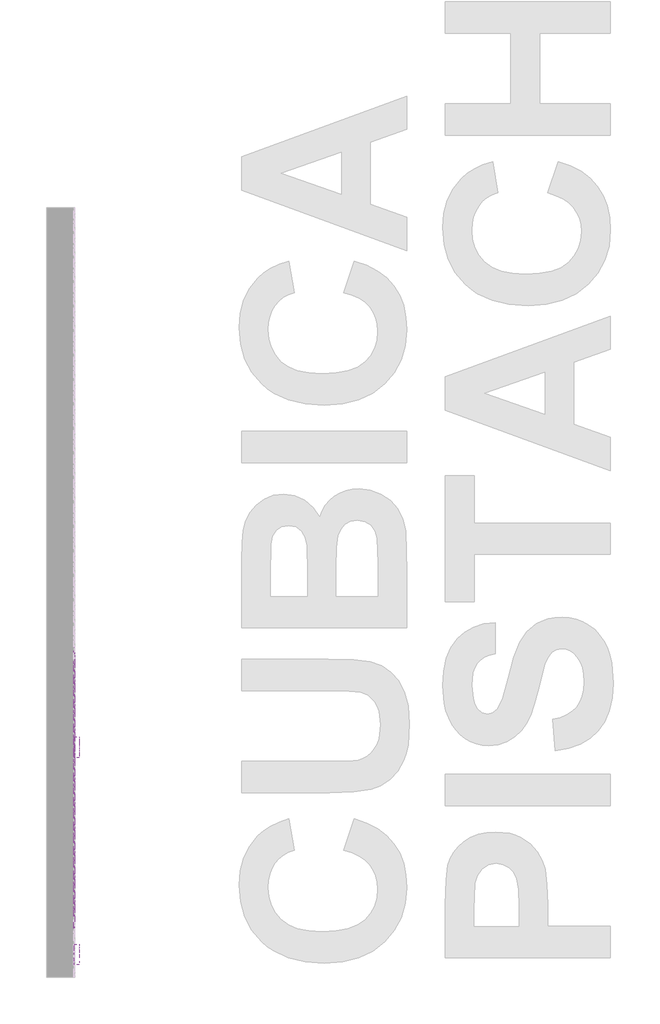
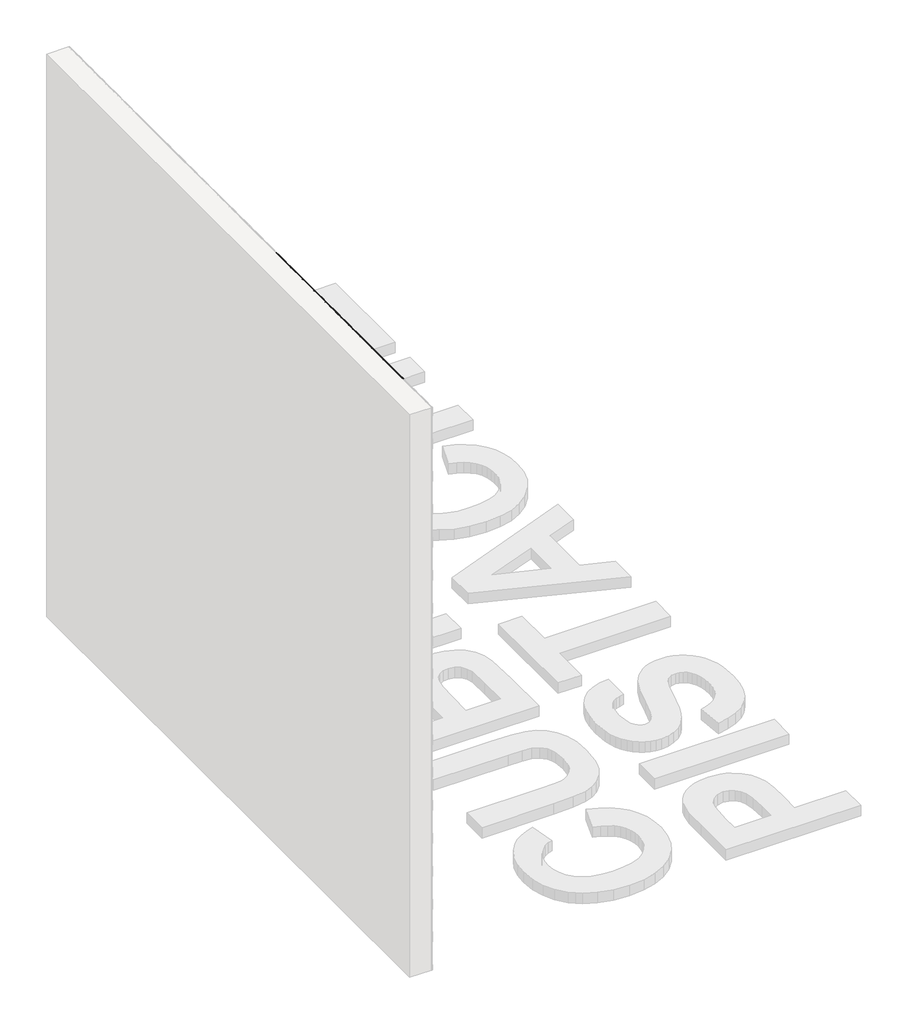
# One storey, part 83 of 121: 95 proxies.
"""IFC4 building model written with IfcOpenShell, lengths in millimetres."""

from ifc_helpers import new_model, si_unit, frame, origin, place, context, project, spatial, polyline, outline, extrude, transform, mapped, element, save
from components import generic_models_b2b2c5c1, generic_models_9bf73f6f, generic_models_5d175859, generic_models_65d4feed, generic_models_3c364290, generic_models_b652511d

model = new_model("IFC4")

# Units and contexts
model_context = context("Model", 3, world=origin())
ifc_project = project(units=[si_unit("LENGTHUNIT", "METRE", prefix="MILLI")], contexts=[model_context])

# Site, building, storey
site = spatial("IfcSite", under=ifc_project)
building = spatial("IfcBuilding", under=site)
storey = spatial("IfcBuildingStorey", under=building, Name="PORTOBELLO - SHOWROOM", Elevation=0.0)

# Proxies
placement = place(None, origin())
generic_models_shape = generic_models_b2b2c5c1(model_context)
element("IfcBuildingElementProxy", 1, Name="PBSHOP - CUBICA PISTACHE 4,8X8,3 : CUBICA PISTACHE - POSIÇÃO 01", ObjectType="PBSHOP - CUBICA PISTACHE 4,8X8,3 : CUBICA PISTACHE - POSIÇÃO 01", at=placement, inside=storey, context=model_context, shape_type="MappedRepresentation", body=[
    mapped(generic_models_shape, transform((150369.5341846, 14068.297515, 39.4221668), x_axis=(0.0, 1.0, 0.0), y_axis=(0.0, 0.0, 1.0), z_axis=(1.0, 0.0, 0.0))),
])
element("IfcBuildingElementProxy", 2, Name="PBSHOP - CUBICA PISTACHE 4,8X8,3 : CUBICA PISTACHE - POSIÇÃO 01", ObjectType="PBSHOP - CUBICA PISTACHE 4,8X8,3 : CUBICA PISTACHE - POSIÇÃO 01", at=placement, inside=storey, context=model_context, shape_type="MappedRepresentation", body=[
    mapped(generic_models_shape, transform((150369.5341846, 14159.1367842, 39.4221668), x_axis=(0.0, 1.0, 0.0), y_axis=(0.0, 0.0, 1.0), z_axis=(1.0, 0.0, 0.0))),
])
element("IfcBuildingElementProxy", 3, Name="PBSHOP - CUBICA PISTACHE 4,8X8,3 : CUBICA PISTACHE - POSIÇÃO 01", ObjectType="PBSHOP - CUBICA PISTACHE 4,8X8,3 : CUBICA PISTACHE - POSIÇÃO 01", at=placement, inside=storey, context=model_context, shape_type="MappedRepresentation", body=[
    mapped(generic_models_shape, transform((150369.5341846, 13523.2618995, 2565.3305948), x_axis=(0.0, 1.0, 0.0), y_axis=(0.0, 0.0, 1.0), z_axis=(1.0, 0.0, 0.0))),
])
element("IfcBuildingElementProxy", 4, Name="PBSHOP - CUBICA PISTACHE 4,8X8,3 : CUBICA PISTACHE - POSIÇÃO 01", ObjectType="PBSHOP - CUBICA PISTACHE 4,8X8,3 : CUBICA PISTACHE - POSIÇÃO 01", at=placement, inside=storey, context=model_context, shape_type="MappedRepresentation", body=[
    mapped(generic_models_shape, transform((150369.5341846, 13614.1011688, 2565.3305948), x_axis=(0.0, 1.0, 0.0), y_axis=(0.0, 0.0, 1.0), z_axis=(1.0, 0.0, 0.0))),
])
element("IfcBuildingElementProxy", 5, Name="PBSHOP - CUBICA PISTACHE 4,8X8,3 : CUBICA PISTACHE - POSIÇÃO 01", ObjectType="PBSHOP - CUBICA PISTACHE 4,8X8,3 : CUBICA PISTACHE - POSIÇÃO 01", at=placement, inside=storey, context=model_context, shape_type="MappedRepresentation", body=[
    mapped(generic_models_shape, transform((150369.5341846, 13704.940438, 2565.3305948), x_axis=(0.0, 1.0, 0.0), y_axis=(0.0, 0.0, 1.0), z_axis=(1.0, 0.0, 0.0))),
])
element("IfcBuildingElementProxy", 6, Name="PBSHOP - CUBICA PISTACHE 4,8X8,3 : CUBICA PISTACHE - POSIÇÃO 01", ObjectType="PBSHOP - CUBICA PISTACHE 4,8X8,3 : CUBICA PISTACHE - POSIÇÃO 01", at=placement, inside=storey, context=model_context, shape_type="MappedRepresentation", body=[
    mapped(generic_models_shape, transform((150369.5341846, 13795.7797073, 2565.3305948), x_axis=(0.0, 1.0, 0.0), y_axis=(0.0, 0.0, 1.0), z_axis=(1.0, 0.0, 0.0))),
])
element("IfcBuildingElementProxy", 7, Name="PBSHOP - CUBICA PISTACHE 4,8X8,3 : CUBICA PISTACHE - POSIÇÃO 01", ObjectType="PBSHOP - CUBICA PISTACHE 4,8X8,3 : CUBICA PISTACHE - POSIÇÃO 01", at=placement, inside=storey, context=model_context, shape_type="MappedRepresentation", body=[
    mapped(generic_models_shape, transform((150369.5341846, 13886.6189765, 2565.3305948), x_axis=(0.0, 1.0, 0.0), y_axis=(0.0, 0.0, 1.0), z_axis=(1.0, 0.0, 0.0))),
])
element("IfcBuildingElementProxy", 8, Name="PBSHOP - CUBICA PISTACHE 4,8X8,3 : CUBICA PISTACHE - POSIÇÃO 01", ObjectType="PBSHOP - CUBICA PISTACHE 4,8X8,3 : CUBICA PISTACHE - POSIÇÃO 01", at=placement, inside=storey, context=model_context, shape_type="MappedRepresentation", body=[
    mapped(generic_models_shape, transform((150369.5341846, 13977.4582457, 2565.3305948), x_axis=(0.0, 1.0, 0.0), y_axis=(0.0, 0.0, 1.0), z_axis=(1.0, 0.0, 0.0))),
])
element("IfcBuildingElementProxy", 9, Name="PBSHOP - CUBICA PISTACHE 4,8X8,3 : CUBICA PISTACHE - POSIÇÃO 01", ObjectType="PBSHOP - CUBICA PISTACHE 4,8X8,3 : CUBICA PISTACHE - POSIÇÃO 01", at=placement, inside=storey, context=model_context, shape_type="MappedRepresentation", body=[
    mapped(generic_models_shape, transform((150369.5341846, 13023.6459187, 2644.2652332), x_axis=(0.0, 1.0, 0.0), y_axis=(0.0, 0.0, 1.0), z_axis=(1.0, 0.0, 0.0))),
])
element("IfcBuildingElementProxy", 10, Name="PBSHOP - CUBICA PISTACHE 4,8X8,3 : CUBICA PISTACHE - POSIÇÃO 01", ObjectType="PBSHOP - CUBICA PISTACHE 4,8X8,3 : CUBICA PISTACHE - POSIÇÃO 01", at=placement, inside=storey, context=model_context, shape_type="MappedRepresentation", body=[
    mapped(generic_models_shape, transform((150369.5341846, 13114.4851879, 2644.2652332), x_axis=(0.0, 1.0, 0.0), y_axis=(0.0, 0.0, 1.0), z_axis=(1.0, 0.0, 0.0))),
])
element("IfcBuildingElementProxy", 11, Name="PBSHOP - CUBICA PISTACHE 4,8X8,3 : CUBICA PISTACHE - POSIÇÃO 01", ObjectType="PBSHOP - CUBICA PISTACHE 4,8X8,3 : CUBICA PISTACHE - POSIÇÃO 01", at=placement, inside=storey, context=model_context, shape_type="MappedRepresentation", body=[
    mapped(generic_models_shape, transform((150369.5341846, 13205.3244572, 2644.2652332), x_axis=(0.0, 1.0, 0.0), y_axis=(0.0, 0.0, 1.0), z_axis=(1.0, 0.0, 0.0))),
])
element("IfcBuildingElementProxy", 12, Name="PBSHOP - CUBICA PISTACHE 4,8X8,3 : CUBICA PISTACHE - POSIÇÃO 01", ObjectType="PBSHOP - CUBICA PISTACHE 4,8X8,3 : CUBICA PISTACHE - POSIÇÃO 01", at=placement, inside=storey, context=model_context, shape_type="MappedRepresentation", body=[
    mapped(generic_models_shape, transform((150369.5341846, 13296.1637264, 2644.2652332), x_axis=(0.0, 1.0, 0.0), y_axis=(0.0, 0.0, 1.0), z_axis=(1.0, 0.0, 0.0))),
])
element("IfcBuildingElementProxy", 13, Name="PBSHOP - CUBICA PISTACHE 4,8X8,3 : CUBICA PISTACHE - POSIÇÃO 01", ObjectType="PBSHOP - CUBICA PISTACHE 4,8X8,3 : CUBICA PISTACHE - POSIÇÃO 01", at=placement, inside=storey, context=model_context, shape_type="MappedRepresentation", body=[
    mapped(generic_models_shape, transform((150369.5341846, 13387.0029957, 2644.2652332), x_axis=(0.0, 1.0, 0.0), y_axis=(0.0, 0.0, 1.0), z_axis=(1.0, 0.0, 0.0))),
])
element("IfcBuildingElementProxy", 14, Name="PBSHOP - CUBICA PISTACHE 4,8X8,3 : CUBICA PISTACHE - POSIÇÃO 01", ObjectType="PBSHOP - CUBICA PISTACHE 4,8X8,3 : CUBICA PISTACHE - POSIÇÃO 01", at=placement, inside=storey, context=model_context, shape_type="MappedRepresentation", body=[
    mapped(generic_models_shape, transform((150369.5341846, 13477.8422649, 2644.2652332), x_axis=(0.0, 1.0, 0.0), y_axis=(0.0, 0.0, 1.0), z_axis=(1.0, 0.0, 0.0))),
])
element("IfcBuildingElementProxy", 15, Name="PBSHOP - CUBICA PISTACHE 4,8X8,3 : CUBICA PISTACHE - POSIÇÃO 01", ObjectType="PBSHOP - CUBICA PISTACHE 4,8X8,3 : CUBICA PISTACHE - POSIÇÃO 01", at=placement, inside=storey, context=model_context, shape_type="MappedRepresentation", body=[
    mapped(generic_models_shape, transform((150369.5341846, 13568.6815341, 2644.2652332), x_axis=(0.0, 1.0, 0.0), y_axis=(0.0, 0.0, 1.0), z_axis=(1.0, 0.0, 0.0))),
])
element("IfcBuildingElementProxy", 16, Name="PBSHOP - CUBICA PISTACHE 4,8X8,3 : CUBICA PISTACHE - POSIÇÃO 01", ObjectType="PBSHOP - CUBICA PISTACHE 4,8X8,3 : CUBICA PISTACHE - POSIÇÃO 01", at=placement, inside=storey, context=model_context, shape_type="MappedRepresentation", body=[
    mapped(generic_models_shape, transform((150369.5341846, 13659.5208034, 2644.2652332), x_axis=(0.0, 1.0, 0.0), y_axis=(0.0, 0.0, 1.0), z_axis=(1.0, 0.0, 0.0))),
])
element("IfcBuildingElementProxy", 17, Name="PBSHOP - CUBICA PISTACHE 4,8X8,3 : CUBICA PISTACHE - POSIÇÃO 01", ObjectType="PBSHOP - CUBICA PISTACHE 4,8X8,3 : CUBICA PISTACHE - POSIÇÃO 01", at=placement, inside=storey, context=model_context, shape_type="MappedRepresentation", body=[
    mapped(generic_models_shape, transform((150369.5341846, 13750.3600726, 2644.2652332), x_axis=(0.0, 1.0, 0.0), y_axis=(0.0, 0.0, 1.0), z_axis=(1.0, 0.0, 0.0))),
])
element("IfcBuildingElementProxy", 18, Name="PBSHOP - CUBICA PISTACHE 4,8X8,3 : CUBICA PISTACHE - POSIÇÃO 01", ObjectType="PBSHOP - CUBICA PISTACHE 4,8X8,3 : CUBICA PISTACHE - POSIÇÃO 01", at=placement, inside=storey, context=model_context, shape_type="MappedRepresentation", body=[
    mapped(generic_models_shape, transform((150369.5341846, 13841.1993419, 2644.2652332), x_axis=(0.0, 1.0, 0.0), y_axis=(0.0, 0.0, 1.0), z_axis=(1.0, 0.0, 0.0))),
])
element("IfcBuildingElementProxy", 19, Name="PBSHOP - CUBICA PISTACHE 4,8X8,3 : CUBICA PISTACHE - POSIÇÃO 01", ObjectType="PBSHOP - CUBICA PISTACHE 4,8X8,3 : CUBICA PISTACHE - POSIÇÃO 01", at=placement, inside=storey, context=model_context, shape_type="MappedRepresentation", body=[
    mapped(generic_models_shape, transform((150369.5341846, 13932.0386111, 2644.2652332), x_axis=(0.0, 1.0, 0.0), y_axis=(0.0, 0.0, 1.0), z_axis=(1.0, 0.0, 0.0))),
])
generic_models_2_shape = generic_models_9bf73f6f(model_context)
element("IfcBuildingElementProxy", 20, Name="PBSHOP - CUBICA PISTACHE 4,8X8,3 : CUBICA PISTACHE - POSIÇÃO 03", ObjectType="PBSHOP - CUBICA PISTACHE 4,8X8,3 : CUBICA PISTACHE - POSIÇÃO 03", at=placement, inside=storey, context=model_context, shape_type="MappedRepresentation", body=[
    mapped(generic_models_2_shape, transform((150369.5341846, 13046.3578952, 2525.8220652), x_axis=(0.0, 1.0, 0.0), y_axis=(0.0, 0.0, 1.0), z_axis=(1.0, 0.0, 0.0))),
])
element("IfcBuildingElementProxy", 21, Name="PBSHOP - CUBICA PISTACHE 4,8X8,3 : CUBICA PISTACHE - POSIÇÃO 03", ObjectType="PBSHOP - CUBICA PISTACHE 4,8X8,3 : CUBICA PISTACHE - POSIÇÃO 03", at=placement, inside=storey, context=model_context, shape_type="MappedRepresentation", body=[
    mapped(generic_models_2_shape, transform((150369.5341846, 13137.1971644, 2525.8220652), x_axis=(0.0, 1.0, 0.0), y_axis=(0.0, 0.0, 1.0), z_axis=(1.0, 0.0, 0.0))),
])
element("IfcBuildingElementProxy", 22, Name="PBSHOP - CUBICA PISTACHE 4,8X8,3 : CUBICA PISTACHE - POSIÇÃO 03", ObjectType="PBSHOP - CUBICA PISTACHE 4,8X8,3 : CUBICA PISTACHE - POSIÇÃO 03", at=placement, inside=storey, context=model_context, shape_type="MappedRepresentation", body=[
    mapped(generic_models_2_shape, transform((150369.5341846, 13228.0364336, 2525.8220652), x_axis=(0.0, 1.0, 0.0), y_axis=(0.0, 0.0, 1.0), z_axis=(1.0, 0.0, 0.0))),
])
element("IfcBuildingElementProxy", 23, Name="PBSHOP - CUBICA PISTACHE 4,8X8,3 : CUBICA PISTACHE - POSIÇÃO 03", ObjectType="PBSHOP - CUBICA PISTACHE 4,8X8,3 : CUBICA PISTACHE - POSIÇÃO 03", at=placement, inside=storey, context=model_context, shape_type="MappedRepresentation", body=[
    mapped(generic_models_2_shape, transform((150369.5341846, 13318.8757029, 2525.8220652), x_axis=(0.0, 1.0, 0.0), y_axis=(0.0, 0.0, 1.0), z_axis=(1.0, 0.0, 0.0))),
])
element("IfcBuildingElementProxy", 24, Name="PBSHOP - CUBICA PISTACHE 4,8X8,3 : CUBICA PISTACHE - POSIÇÃO 03", ObjectType="PBSHOP - CUBICA PISTACHE 4,8X8,3 : CUBICA PISTACHE - POSIÇÃO 03", at=placement, inside=storey, context=model_context, shape_type="MappedRepresentation", body=[
    mapped(generic_models_2_shape, transform((150369.5341846, 13409.7149721, 2525.8220652), x_axis=(0.0, 1.0, 0.0), y_axis=(0.0, 0.0, 1.0), z_axis=(1.0, 0.0, 0.0))),
])
element("IfcBuildingElementProxy", 25, Name="PBSHOP - CUBICA PISTACHE 4,8X8,3 : CUBICA PISTACHE - POSIÇÃO 03", ObjectType="PBSHOP - CUBICA PISTACHE 4,8X8,3 : CUBICA PISTACHE - POSIÇÃO 03", at=placement, inside=storey, context=model_context, shape_type="MappedRepresentation", body=[
    mapped(generic_models_2_shape, transform((150369.5341846, 13500.5542414, 2525.8220652), x_axis=(0.0, 1.0, 0.0), y_axis=(0.0, 0.0, 1.0), z_axis=(1.0, 0.0, 0.0))),
])
element("IfcBuildingElementProxy", 26, Name="PBSHOP - CUBICA PISTACHE 4,8X8,3 : CUBICA PISTACHE - POSIÇÃO 03", ObjectType="PBSHOP - CUBICA PISTACHE 4,8X8,3 : CUBICA PISTACHE - POSIÇÃO 03", at=placement, inside=storey, context=model_context, shape_type="MappedRepresentation", body=[
    mapped(generic_models_2_shape, transform((150369.5341846, 13591.3935106, 2525.8220652), x_axis=(0.0, 1.0, 0.0), y_axis=(0.0, 0.0, 1.0), z_axis=(1.0, 0.0, 0.0))),
])
element("IfcBuildingElementProxy", 27, Name="PBSHOP - CUBICA PISTACHE 4,8X8,3 : CUBICA PISTACHE - POSIÇÃO 03", ObjectType="PBSHOP - CUBICA PISTACHE 4,8X8,3 : CUBICA PISTACHE - POSIÇÃO 03", at=placement, inside=storey, context=model_context, shape_type="MappedRepresentation", body=[
    mapped(generic_models_2_shape, transform((150369.5341846, 13682.2327799, 2525.8220652), x_axis=(0.0, 1.0, 0.0), y_axis=(0.0, 0.0, 1.0), z_axis=(1.0, 0.0, 0.0))),
])
element("IfcBuildingElementProxy", 28, Name="PBSHOP - CUBICA PISTACHE 4,8X8,3 : CUBICA PISTACHE - POSIÇÃO 03", ObjectType="PBSHOP - CUBICA PISTACHE 4,8X8,3 : CUBICA PISTACHE - POSIÇÃO 03", at=placement, inside=storey, context=model_context, shape_type="MappedRepresentation", body=[
    mapped(generic_models_2_shape, transform((150369.5341846, 13773.0720491, 2525.8220652), x_axis=(0.0, 1.0, 0.0), y_axis=(0.0, 0.0, 1.0), z_axis=(1.0, 0.0, 0.0))),
])
element("IfcBuildingElementProxy", 29, Name="PBSHOP - CUBICA PISTACHE 4,8X8,3 : CUBICA PISTACHE - POSIÇÃO 03", ObjectType="PBSHOP - CUBICA PISTACHE 4,8X8,3 : CUBICA PISTACHE - POSIÇÃO 03", at=placement, inside=storey, context=model_context, shape_type="MappedRepresentation", body=[
    mapped(generic_models_2_shape, transform((150369.5341846, 13863.9113184, 2525.8220652), x_axis=(0.0, 1.0, 0.0), y_axis=(0.0, 0.0, 1.0), z_axis=(1.0, 0.0, 0.0))),
])
element("IfcBuildingElementProxy", 30, Name="PBSHOP - CUBICA PISTACHE 4,8X8,3 : CUBICA PISTACHE - POSIÇÃO 03", ObjectType="PBSHOP - CUBICA PISTACHE 4,8X8,3 : CUBICA PISTACHE - POSIÇÃO 03", at=placement, inside=storey, context=model_context, shape_type="MappedRepresentation", body=[
    mapped(generic_models_2_shape, transform((150369.5341846, 13954.7505876, 2525.8220652), x_axis=(0.0, 1.0, 0.0), y_axis=(0.0, 0.0, 1.0), z_axis=(1.0, 0.0, 0.0))),
])
element("IfcBuildingElementProxy", 31, Name="PBSHOP - CUBICA PISTACHE 4,8X8,3 : CUBICA PISTACHE - POSIÇÃO 03", ObjectType="PBSHOP - CUBICA PISTACHE 4,8X8,3 : CUBICA PISTACHE - POSIÇÃO 03", at=placement, inside=storey, context=model_context, shape_type="MappedRepresentation", body=[
    mapped(generic_models_2_shape, transform((150369.5341846, 13000.9382605, 2604.7567035), x_axis=(0.0, 1.0, 0.0), y_axis=(0.0, 0.0, 1.0), z_axis=(1.0, 0.0, 0.0))),
])
element("IfcBuildingElementProxy", 32, Name="PBSHOP - CUBICA PISTACHE 4,8X8,3 : CUBICA PISTACHE - POSIÇÃO 03", ObjectType="PBSHOP - CUBICA PISTACHE 4,8X8,3 : CUBICA PISTACHE - POSIÇÃO 03", at=placement, inside=storey, context=model_context, shape_type="MappedRepresentation", body=[
    mapped(generic_models_2_shape, transform((150369.5341846, 13091.7775298, 2604.7567035), x_axis=(0.0, 1.0, 0.0), y_axis=(0.0, 0.0, 1.0), z_axis=(1.0, 0.0, 0.0))),
])
element("IfcBuildingElementProxy", 33, Name="PBSHOP - CUBICA PISTACHE 4,8X8,3 : CUBICA PISTACHE - POSIÇÃO 03", ObjectType="PBSHOP - CUBICA PISTACHE 4,8X8,3 : CUBICA PISTACHE - POSIÇÃO 03", at=placement, inside=storey, context=model_context, shape_type="MappedRepresentation", body=[
    mapped(generic_models_2_shape, transform((150369.5341846, 13182.616799, 2604.7567035), x_axis=(0.0, 1.0, 0.0), y_axis=(0.0, 0.0, 1.0), z_axis=(1.0, 0.0, 0.0))),
])
element("IfcBuildingElementProxy", 34, Name="PBSHOP - CUBICA PISTACHE 4,8X8,3 : CUBICA PISTACHE - POSIÇÃO 03", ObjectType="PBSHOP - CUBICA PISTACHE 4,8X8,3 : CUBICA PISTACHE - POSIÇÃO 03", at=placement, inside=storey, context=model_context, shape_type="MappedRepresentation", body=[
    mapped(generic_models_2_shape, transform((150369.5341846, 13273.4560683, 2604.7567035), x_axis=(0.0, 1.0, 0.0), y_axis=(0.0, 0.0, 1.0), z_axis=(1.0, 0.0, 0.0))),
])
element("IfcBuildingElementProxy", 35, Name="PBSHOP - CUBICA PISTACHE 4,8X8,3 : CUBICA PISTACHE - POSIÇÃO 03", ObjectType="PBSHOP - CUBICA PISTACHE 4,8X8,3 : CUBICA PISTACHE - POSIÇÃO 03", at=placement, inside=storey, context=model_context, shape_type="MappedRepresentation", body=[
    mapped(generic_models_2_shape, transform((150369.5341846, 13364.2953375, 2604.7567035), x_axis=(0.0, 1.0, 0.0), y_axis=(0.0, 0.0, 1.0), z_axis=(1.0, 0.0, 0.0))),
])
element("IfcBuildingElementProxy", 36, Name="PBSHOP - CUBICA PISTACHE 4,8X8,3 : CUBICA PISTACHE - POSIÇÃO 03", ObjectType="PBSHOP - CUBICA PISTACHE 4,8X8,3 : CUBICA PISTACHE - POSIÇÃO 03", at=placement, inside=storey, context=model_context, shape_type="MappedRepresentation", body=[
    mapped(generic_models_2_shape, transform((150369.5341846, 13455.1346068, 2604.7567035), x_axis=(0.0, 1.0, 0.0), y_axis=(0.0, 0.0, 1.0), z_axis=(1.0, 0.0, 0.0))),
])
element("IfcBuildingElementProxy", 37, Name="PBSHOP - CUBICA PISTACHE 4,8X8,3 : CUBICA PISTACHE - POSIÇÃO 03", ObjectType="PBSHOP - CUBICA PISTACHE 4,8X8,3 : CUBICA PISTACHE - POSIÇÃO 03", at=placement, inside=storey, context=model_context, shape_type="MappedRepresentation", body=[
    mapped(generic_models_2_shape, transform((150369.5341846, 13545.973876, 2604.7567035), x_axis=(0.0, 1.0, 0.0), y_axis=(0.0, 0.0, 1.0), z_axis=(1.0, 0.0, 0.0))),
])
element("IfcBuildingElementProxy", 38, Name="PBSHOP - CUBICA PISTACHE 4,8X8,3 : CUBICA PISTACHE - POSIÇÃO 03", ObjectType="PBSHOP - CUBICA PISTACHE 4,8X8,3 : CUBICA PISTACHE - POSIÇÃO 03", at=placement, inside=storey, context=model_context, shape_type="MappedRepresentation", body=[
    mapped(generic_models_2_shape, transform((150369.5341846, 13636.8131452, 2604.7567035), x_axis=(0.0, 1.0, 0.0), y_axis=(0.0, 0.0, 1.0), z_axis=(1.0, 0.0, 0.0))),
])
element("IfcBuildingElementProxy", 39, Name="PBSHOP - CUBICA PISTACHE 4,8X8,3 : CUBICA PISTACHE - POSIÇÃO 03", ObjectType="PBSHOP - CUBICA PISTACHE 4,8X8,3 : CUBICA PISTACHE - POSIÇÃO 03", at=placement, inside=storey, context=model_context, shape_type="MappedRepresentation", body=[
    mapped(generic_models_2_shape, transform((150369.5341846, 13727.6524145, 2604.7567035), x_axis=(0.0, 1.0, 0.0), y_axis=(0.0, 0.0, 1.0), z_axis=(1.0, 0.0, 0.0))),
])
element("IfcBuildingElementProxy", 40, Name="PBSHOP - CUBICA PISTACHE 4,8X8,3 : CUBICA PISTACHE - POSIÇÃO 03", ObjectType="PBSHOP - CUBICA PISTACHE 4,8X8,3 : CUBICA PISTACHE - POSIÇÃO 03", at=placement, inside=storey, context=model_context, shape_type="MappedRepresentation", body=[
    mapped(generic_models_2_shape, transform((150369.5341846, 13818.4916837, 2604.7567035), x_axis=(0.0, 1.0, 0.0), y_axis=(0.0, 0.0, 1.0), z_axis=(1.0, 0.0, 0.0))),
])
element("IfcBuildingElementProxy", 41, Name="PBSHOP - CUBICA PISTACHE 4,8X8,3 : CUBICA PISTACHE - POSIÇÃO 03", ObjectType="PBSHOP - CUBICA PISTACHE 4,8X8,3 : CUBICA PISTACHE - POSIÇÃO 03", at=placement, inside=storey, context=model_context, shape_type="MappedRepresentation", body=[
    mapped(generic_models_2_shape, transform((150369.5341846, 13909.330953, 2604.7567035), x_axis=(0.0, 1.0, 0.0), y_axis=(0.0, 0.0, 1.0), z_axis=(1.0, 0.0, 0.0))),
])
generic_models_3_shape = generic_models_5d175859(model_context)
element("IfcBuildingElementProxy", 42, Name="PBSHOP - CUBICA PISTACHE 4,8X8,3 : CUBICA PISTACHE - POSIÇÃO 01", ObjectType="PBSHOP - CUBICA PISTACHE 4,8X8,3 : CUBICA PISTACHE - POSIÇÃO 01", at=placement, inside=storey, context=model_context, shape_type="MappedRepresentation", body=[
    mapped(generic_models_3_shape, transform((150369.5341846, 14022.8821987, 39.4221668), x_axis=(0.0, -1.0, 0.0), y_axis=(0.0, 0.0, -1.0), z_axis=(1.0, 0.0, 0.0))),
])
element("IfcBuildingElementProxy", 43, Name="PBSHOP - CUBICA PISTACHE 4,8X8,3 : CUBICA PISTACHE - POSIÇÃO 01", ObjectType="PBSHOP - CUBICA PISTACHE 4,8X8,3 : CUBICA PISTACHE - POSIÇÃO 01", at=placement, inside=storey, context=model_context, shape_type="MappedRepresentation", body=[
    mapped(generic_models_3_shape, transform((150369.5341846, 14113.7214679, 39.4221668), x_axis=(0.0, -1.0, 0.0), y_axis=(0.0, 0.0, -1.0), z_axis=(1.0, 0.0, 0.0))),
])
element("IfcBuildingElementProxy", 44, Name="PBSHOP - CUBICA PISTACHE 4,8X8,3 : CUBICA PISTACHE - POSIÇÃO 01", ObjectType="PBSHOP - CUBICA PISTACHE 4,8X8,3 : CUBICA PISTACHE - POSIÇÃO 01", at=placement, inside=storey, context=model_context, shape_type="MappedRepresentation", body=[
    mapped(generic_models_3_shape, transform((150369.5341846, 14204.5607372, 39.4221668), x_axis=(0.0, -1.0, 0.0), y_axis=(0.0, 0.0, -1.0), z_axis=(1.0, 0.0, 0.0))),
])
element("IfcBuildingElementProxy", 45, Name="PBSHOP - CUBICA PISTACHE 4,8X8,3 : CUBICA PISTACHE - POSIÇÃO 01", ObjectType="PBSHOP - CUBICA PISTACHE 4,8X8,3 : CUBICA PISTACHE - POSIÇÃO 01", at=placement, inside=storey, context=model_context, shape_type="MappedRepresentation", body=[
    mapped(generic_models_3_shape, transform((150369.5341846, 13568.6858525, 2565.3305948), x_axis=(0.0, -1.0, 0.0), y_axis=(0.0, 0.0, -1.0), z_axis=(1.0, 0.0, 0.0))),
])
element("IfcBuildingElementProxy", 46, Name="PBSHOP - CUBICA PISTACHE 4,8X8,3 : CUBICA PISTACHE - POSIÇÃO 01", ObjectType="PBSHOP - CUBICA PISTACHE 4,8X8,3 : CUBICA PISTACHE - POSIÇÃO 01", at=placement, inside=storey, context=model_context, shape_type="MappedRepresentation", body=[
    mapped(generic_models_3_shape, transform((150369.5341846, 13659.5251217, 2565.3305948), x_axis=(0.0, -1.0, 0.0), y_axis=(0.0, 0.0, -1.0), z_axis=(1.0, 0.0, 0.0))),
])
element("IfcBuildingElementProxy", 47, Name="PBSHOP - CUBICA PISTACHE 4,8X8,3 : CUBICA PISTACHE - POSIÇÃO 01", ObjectType="PBSHOP - CUBICA PISTACHE 4,8X8,3 : CUBICA PISTACHE - POSIÇÃO 01", at=placement, inside=storey, context=model_context, shape_type="MappedRepresentation", body=[
    mapped(generic_models_3_shape, transform((150369.5341846, 13750.364391, 2565.3305948), x_axis=(0.0, -1.0, 0.0), y_axis=(0.0, 0.0, -1.0), z_axis=(1.0, 0.0, 0.0))),
])
element("IfcBuildingElementProxy", 48, Name="PBSHOP - CUBICA PISTACHE 4,8X8,3 : CUBICA PISTACHE - POSIÇÃO 01", ObjectType="PBSHOP - CUBICA PISTACHE 4,8X8,3 : CUBICA PISTACHE - POSIÇÃO 01", at=placement, inside=storey, context=model_context, shape_type="MappedRepresentation", body=[
    mapped(generic_models_3_shape, transform((150369.5341846, 13841.2036602, 2565.3305948), x_axis=(0.0, -1.0, 0.0), y_axis=(0.0, 0.0, -1.0), z_axis=(1.0, 0.0, 0.0))),
])
element("IfcBuildingElementProxy", 49, Name="PBSHOP - CUBICA PISTACHE 4,8X8,3 : CUBICA PISTACHE - POSIÇÃO 01", ObjectType="PBSHOP - CUBICA PISTACHE 4,8X8,3 : CUBICA PISTACHE - POSIÇÃO 01", at=placement, inside=storey, context=model_context, shape_type="MappedRepresentation", body=[
    mapped(generic_models_3_shape, transform((150369.5341846, 13932.0429295, 2565.3305948), x_axis=(0.0, -1.0, 0.0), y_axis=(0.0, 0.0, -1.0), z_axis=(1.0, 0.0, 0.0))),
])
element("IfcBuildingElementProxy", 50, Name="PBSHOP - CUBICA PISTACHE 4,8X8,3 : CUBICA PISTACHE - POSIÇÃO 01", ObjectType="PBSHOP - CUBICA PISTACHE 4,8X8,3 : CUBICA PISTACHE - POSIÇÃO 01", at=placement, inside=storey, context=model_context, shape_type="MappedRepresentation", body=[
    mapped(generic_models_3_shape, transform((150369.5341846, 13069.0698716, 2644.2652332), x_axis=(0.0, -1.0, 0.0), y_axis=(0.0, 0.0, -1.0), z_axis=(1.0, 0.0, 0.0))),
])
element("IfcBuildingElementProxy", 51, Name="PBSHOP - CUBICA PISTACHE 4,8X8,3 : CUBICA PISTACHE - POSIÇÃO 01", ObjectType="PBSHOP - CUBICA PISTACHE 4,8X8,3 : CUBICA PISTACHE - POSIÇÃO 01", at=placement, inside=storey, context=model_context, shape_type="MappedRepresentation", body=[
    mapped(generic_models_3_shape, transform((150369.5341846, 13159.9091409, 2644.2652332), x_axis=(0.0, -1.0, 0.0), y_axis=(0.0, 0.0, -1.0), z_axis=(1.0, 0.0, 0.0))),
])
element("IfcBuildingElementProxy", 52, Name="PBSHOP - CUBICA PISTACHE 4,8X8,3 : CUBICA PISTACHE - POSIÇÃO 01", ObjectType="PBSHOP - CUBICA PISTACHE 4,8X8,3 : CUBICA PISTACHE - POSIÇÃO 01", at=placement, inside=storey, context=model_context, shape_type="MappedRepresentation", body=[
    mapped(generic_models_3_shape, transform((150369.5341846, 13250.7484101, 2644.2652332), x_axis=(0.0, -1.0, 0.0), y_axis=(0.0, 0.0, -1.0), z_axis=(1.0, 0.0, 0.0))),
])
element("IfcBuildingElementProxy", 53, Name="PBSHOP - CUBICA PISTACHE 4,8X8,3 : CUBICA PISTACHE - POSIÇÃO 01", ObjectType="PBSHOP - CUBICA PISTACHE 4,8X8,3 : CUBICA PISTACHE - POSIÇÃO 01", at=placement, inside=storey, context=model_context, shape_type="MappedRepresentation", body=[
    mapped(generic_models_3_shape, transform((150369.5341846, 13341.5876794, 2644.2652332), x_axis=(0.0, -1.0, 0.0), y_axis=(0.0, 0.0, -1.0), z_axis=(1.0, 0.0, 0.0))),
])
element("IfcBuildingElementProxy", 54, Name="PBSHOP - CUBICA PISTACHE 4,8X8,3 : CUBICA PISTACHE - POSIÇÃO 01", ObjectType="PBSHOP - CUBICA PISTACHE 4,8X8,3 : CUBICA PISTACHE - POSIÇÃO 01", at=placement, inside=storey, context=model_context, shape_type="MappedRepresentation", body=[
    mapped(generic_models_3_shape, transform((150369.5341846, 13432.4269486, 2644.2652332), x_axis=(0.0, -1.0, 0.0), y_axis=(0.0, 0.0, -1.0), z_axis=(1.0, 0.0, 0.0))),
])
element("IfcBuildingElementProxy", 55, Name="PBSHOP - CUBICA PISTACHE 4,8X8,3 : CUBICA PISTACHE - POSIÇÃO 01", ObjectType="PBSHOP - CUBICA PISTACHE 4,8X8,3 : CUBICA PISTACHE - POSIÇÃO 01", at=placement, inside=storey, context=model_context, shape_type="MappedRepresentation", body=[
    mapped(generic_models_3_shape, transform((150369.5341846, 13523.2662179, 2644.2652332), x_axis=(0.0, -1.0, 0.0), y_axis=(0.0, 0.0, -1.0), z_axis=(1.0, 0.0, 0.0))),
])
element("IfcBuildingElementProxy", 56, Name="PBSHOP - CUBICA PISTACHE 4,8X8,3 : CUBICA PISTACHE - POSIÇÃO 01", ObjectType="PBSHOP - CUBICA PISTACHE 4,8X8,3 : CUBICA PISTACHE - POSIÇÃO 01", at=placement, inside=storey, context=model_context, shape_type="MappedRepresentation", body=[
    mapped(generic_models_3_shape, transform((150369.5341846, 13614.1054871, 2644.2652332), x_axis=(0.0, -1.0, 0.0), y_axis=(0.0, 0.0, -1.0), z_axis=(1.0, 0.0, 0.0))),
])
element("IfcBuildingElementProxy", 57, Name="PBSHOP - CUBICA PISTACHE 4,8X8,3 : CUBICA PISTACHE - POSIÇÃO 01", ObjectType="PBSHOP - CUBICA PISTACHE 4,8X8,3 : CUBICA PISTACHE - POSIÇÃO 01", at=placement, inside=storey, context=model_context, shape_type="MappedRepresentation", body=[
    mapped(generic_models_3_shape, transform((150369.5341846, 13704.9447563, 2644.2652332), x_axis=(0.0, -1.0, 0.0), y_axis=(0.0, 0.0, -1.0), z_axis=(1.0, 0.0, 0.0))),
])
element("IfcBuildingElementProxy", 58, Name="PBSHOP - CUBICA PISTACHE 4,8X8,3 : CUBICA PISTACHE - POSIÇÃO 01", ObjectType="PBSHOP - CUBICA PISTACHE 4,8X8,3 : CUBICA PISTACHE - POSIÇÃO 01", at=placement, inside=storey, context=model_context, shape_type="MappedRepresentation", body=[
    mapped(generic_models_3_shape, transform((150369.5341846, 13795.7840256, 2644.2652332), x_axis=(0.0, -1.0, 0.0), y_axis=(0.0, 0.0, -1.0), z_axis=(1.0, 0.0, 0.0))),
])
element("IfcBuildingElementProxy", 59, Name="PBSHOP - CUBICA PISTACHE 4,8X8,3 : CUBICA PISTACHE - POSIÇÃO 01", ObjectType="PBSHOP - CUBICA PISTACHE 4,8X8,3 : CUBICA PISTACHE - POSIÇÃO 01", at=placement, inside=storey, context=model_context, shape_type="MappedRepresentation", body=[
    mapped(generic_models_3_shape, transform((150369.5341846, 13886.6232948, 2644.2652332), x_axis=(0.0, -1.0, 0.0), y_axis=(0.0, 0.0, -1.0), z_axis=(1.0, 0.0, 0.0))),
])
element("IfcBuildingElementProxy", 60, Name="PBSHOP - CUBICA PISTACHE 4,8X8,3 : CUBICA PISTACHE - POSIÇÃO 01", ObjectType="PBSHOP - CUBICA PISTACHE 4,8X8,3 : CUBICA PISTACHE - POSIÇÃO 01", at=placement, inside=storey, context=model_context, shape_type="MappedRepresentation", body=[
    mapped(generic_models_3_shape, transform((150369.5341846, 13977.4625641, 2644.2652332), x_axis=(0.0, -1.0, 0.0), y_axis=(0.0, 0.0, -1.0), z_axis=(1.0, 0.0, 0.0))),
])
generic_models_4_shape = generic_models_65d4feed(model_context)
element("IfcBuildingElementProxy", 61, Name="PBSHOP - CUBICA PISTACHE 4,8X8,3 : CUBICA PISTACHE - POSIÇÃO 01", ObjectType="PBSHOP - CUBICA PISTACHE 4,8X8,3 : CUBICA PISTACHE - POSIÇÃO 01", at=placement, inside=storey, context=model_context, shape_type="MappedRepresentation", body=[
    mapped(generic_models_4_shape, transform((150369.5341846, 13069.0655533, 2723.1998715), x_axis=(0.0, 1.0, 0.0), y_axis=(0.0, 0.0, 1.0), z_axis=(1.0, 0.0, 0.0))),
])
element("IfcBuildingElementProxy", 62, Name="PBSHOP - CUBICA PISTACHE 4,8X8,3 : CUBICA PISTACHE - POSIÇÃO 01", ObjectType="PBSHOP - CUBICA PISTACHE 4,8X8,3 : CUBICA PISTACHE - POSIÇÃO 01", at=placement, inside=storey, context=model_context, shape_type="MappedRepresentation", body=[
    mapped(generic_models_4_shape, transform((150369.5341846, 13159.9048225, 2723.1998715), x_axis=(0.0, 1.0, 0.0), y_axis=(0.0, 0.0, 1.0), z_axis=(1.0, 0.0, 0.0))),
])
element("IfcBuildingElementProxy", 63, Name="PBSHOP - CUBICA PISTACHE 4,8X8,3 : CUBICA PISTACHE - POSIÇÃO 01", ObjectType="PBSHOP - CUBICA PISTACHE 4,8X8,3 : CUBICA PISTACHE - POSIÇÃO 01", at=placement, inside=storey, context=model_context, shape_type="MappedRepresentation", body=[
    mapped(generic_models_4_shape, transform((150369.5341846, 13250.7440918, 2723.1998715), x_axis=(0.0, 1.0, 0.0), y_axis=(0.0, 0.0, 1.0), z_axis=(1.0, 0.0, 0.0))),
])
element("IfcBuildingElementProxy", 64, Name="PBSHOP - CUBICA PISTACHE 4,8X8,3 : CUBICA PISTACHE - POSIÇÃO 01", ObjectType="PBSHOP - CUBICA PISTACHE 4,8X8,3 : CUBICA PISTACHE - POSIÇÃO 01", at=placement, inside=storey, context=model_context, shape_type="MappedRepresentation", body=[
    mapped(generic_models_4_shape, transform((150369.5341846, 13341.583361, 2723.1998715), x_axis=(0.0, 1.0, 0.0), y_axis=(0.0, 0.0, 1.0), z_axis=(1.0, 0.0, 0.0))),
])
element("IfcBuildingElementProxy", 65, Name="PBSHOP - CUBICA PISTACHE 4,8X8,3 : CUBICA PISTACHE - POSIÇÃO 01", ObjectType="PBSHOP - CUBICA PISTACHE 4,8X8,3 : CUBICA PISTACHE - POSIÇÃO 01", at=placement, inside=storey, context=model_context, shape_type="MappedRepresentation", body=[
    mapped(generic_models_4_shape, transform((150369.5341846, 13432.4226303, 2723.1998715), x_axis=(0.0, 1.0, 0.0), y_axis=(0.0, 0.0, 1.0), z_axis=(1.0, 0.0, 0.0))),
])
element("IfcBuildingElementProxy", 66, Name="PBSHOP - CUBICA PISTACHE 4,8X8,3 : CUBICA PISTACHE - POSIÇÃO 01", ObjectType="PBSHOP - CUBICA PISTACHE 4,8X8,3 : CUBICA PISTACHE - POSIÇÃO 01", at=placement, inside=storey, context=model_context, shape_type="MappedRepresentation", body=[
    mapped(generic_models_4_shape, transform((150369.5341846, 13523.2618995, 2723.1998715), x_axis=(0.0, 1.0, 0.0), y_axis=(0.0, 0.0, 1.0), z_axis=(1.0, 0.0, 0.0))),
])
element("IfcBuildingElementProxy", 67, Name="PBSHOP - CUBICA PISTACHE 4,8X8,3 : CUBICA PISTACHE - POSIÇÃO 01", ObjectType="PBSHOP - CUBICA PISTACHE 4,8X8,3 : CUBICA PISTACHE - POSIÇÃO 01", at=placement, inside=storey, context=model_context, shape_type="MappedRepresentation", body=[
    mapped(generic_models_4_shape, transform((150369.5341846, 13614.1011688, 2723.1998715), x_axis=(0.0, 1.0, 0.0), y_axis=(0.0, 0.0, 1.0), z_axis=(1.0, 0.0, 0.0))),
])
element("IfcBuildingElementProxy", 68, Name="PBSHOP - CUBICA PISTACHE 4,8X8,3 : CUBICA PISTACHE - POSIÇÃO 01", ObjectType="PBSHOP - CUBICA PISTACHE 4,8X8,3 : CUBICA PISTACHE - POSIÇÃO 01", at=placement, inside=storey, context=model_context, shape_type="MappedRepresentation", body=[
    mapped(generic_models_4_shape, transform((150369.5341846, 13704.940438, 2723.1998715), x_axis=(0.0, 1.0, 0.0), y_axis=(0.0, 0.0, 1.0), z_axis=(1.0, 0.0, 0.0))),
])
element("IfcBuildingElementProxy", 69, Name="PBSHOP - CUBICA PISTACHE 4,8X8,3 : CUBICA PISTACHE - POSIÇÃO 01", ObjectType="PBSHOP - CUBICA PISTACHE 4,8X8,3 : CUBICA PISTACHE - POSIÇÃO 01", at=placement, inside=storey, context=model_context, shape_type="MappedRepresentation", body=[
    mapped(generic_models_4_shape, transform((150369.5341846, 13795.7797073, 2723.1998715), x_axis=(0.0, 1.0, 0.0), y_axis=(0.0, 0.0, 1.0), z_axis=(1.0, 0.0, 0.0))),
])
element("IfcBuildingElementProxy", 70, Name="PBSHOP - CUBICA PISTACHE 4,8X8,3 : CUBICA PISTACHE - POSIÇÃO 01", ObjectType="PBSHOP - CUBICA PISTACHE 4,8X8,3 : CUBICA PISTACHE - POSIÇÃO 01", at=placement, inside=storey, context=model_context, shape_type="MappedRepresentation", body=[
    mapped(generic_models_4_shape, transform((150369.5341846, 13886.6189765, 2723.1998715), x_axis=(0.0, 1.0, 0.0), y_axis=(0.0, 0.0, 1.0), z_axis=(1.0, 0.0, 0.0))),
])
element("IfcBuildingElementProxy", 71, Name="PBSHOP - CUBICA PISTACHE 4,8X8,3 : CUBICA PISTACHE - POSIÇÃO 01", ObjectType="PBSHOP - CUBICA PISTACHE 4,8X8,3 : CUBICA PISTACHE - POSIÇÃO 01", at=placement, inside=storey, context=model_context, shape_type="MappedRepresentation", body=[
    mapped(generic_models_4_shape, transform((150369.5341846, 13977.4582457, 2723.1998715), x_axis=(0.0, 1.0, 0.0), y_axis=(0.0, 0.0, 1.0), z_axis=(1.0, 0.0, 0.0))),
])
generic_models_5_shape = generic_models_3c364290(model_context)
element("IfcBuildingElementProxy", 72, Name="PBSHOP - CUBICA PISTACHE 4,8X8,3 : CUBICA PISTACHE - POSIÇÃO 01", ObjectType="PBSHOP - CUBICA PISTACHE 4,8X8,3 : CUBICA PISTACHE - POSIÇÃO 01", at=placement, inside=storey, context=model_context, shape_type="MappedRepresentation", body=[
    mapped(generic_models_5_shape, transform((150369.5341846, 13023.650237, 2723.1998715), x_axis=(0.0, -1.0, 0.0), y_axis=(0.0, 0.0, -1.0), z_axis=(1.0, 0.0, 0.0))),
])
element("IfcBuildingElementProxy", 73, Name="PBSHOP - CUBICA PISTACHE 4,8X8,3 : CUBICA PISTACHE - POSIÇÃO 01", ObjectType="PBSHOP - CUBICA PISTACHE 4,8X8,3 : CUBICA PISTACHE - POSIÇÃO 01", at=placement, inside=storey, context=model_context, shape_type="MappedRepresentation", body=[
    mapped(generic_models_5_shape, transform((150369.5341846, 13114.4895063, 2723.1998715), x_axis=(0.0, -1.0, 0.0), y_axis=(0.0, 0.0, -1.0), z_axis=(1.0, 0.0, 0.0))),
])
element("IfcBuildingElementProxy", 74, Name="PBSHOP - CUBICA PISTACHE 4,8X8,3 : CUBICA PISTACHE - POSIÇÃO 01", ObjectType="PBSHOP - CUBICA PISTACHE 4,8X8,3 : CUBICA PISTACHE - POSIÇÃO 01", at=placement, inside=storey, context=model_context, shape_type="MappedRepresentation", body=[
    mapped(generic_models_5_shape, transform((150369.5341846, 13205.3287755, 2723.1998715), x_axis=(0.0, -1.0, 0.0), y_axis=(0.0, 0.0, -1.0), z_axis=(1.0, 0.0, 0.0))),
])
element("IfcBuildingElementProxy", 75, Name="PBSHOP - CUBICA PISTACHE 4,8X8,3 : CUBICA PISTACHE - POSIÇÃO 01", ObjectType="PBSHOP - CUBICA PISTACHE 4,8X8,3 : CUBICA PISTACHE - POSIÇÃO 01", at=placement, inside=storey, context=model_context, shape_type="MappedRepresentation", body=[
    mapped(generic_models_5_shape, transform((150369.5341846, 13296.1680447, 2723.1998715), x_axis=(0.0, -1.0, 0.0), y_axis=(0.0, 0.0, -1.0), z_axis=(1.0, 0.0, 0.0))),
])
element("IfcBuildingElementProxy", 76, Name="PBSHOP - CUBICA PISTACHE 4,8X8,3 : CUBICA PISTACHE - POSIÇÃO 01", ObjectType="PBSHOP - CUBICA PISTACHE 4,8X8,3 : CUBICA PISTACHE - POSIÇÃO 01", at=placement, inside=storey, context=model_context, shape_type="MappedRepresentation", body=[
    mapped(generic_models_5_shape, transform((150369.5341846, 13387.007314, 2723.1998715), x_axis=(0.0, -1.0, 0.0), y_axis=(0.0, 0.0, -1.0), z_axis=(1.0, 0.0, 0.0))),
])
element("IfcBuildingElementProxy", 77, Name="PBSHOP - CUBICA PISTACHE 4,8X8,3 : CUBICA PISTACHE - POSIÇÃO 01", ObjectType="PBSHOP - CUBICA PISTACHE 4,8X8,3 : CUBICA PISTACHE - POSIÇÃO 01", at=placement, inside=storey, context=model_context, shape_type="MappedRepresentation", body=[
    mapped(generic_models_5_shape, transform((150369.5341846, 13477.8465832, 2723.1998715), x_axis=(0.0, -1.0, 0.0), y_axis=(0.0, 0.0, -1.0), z_axis=(1.0, 0.0, 0.0))),
])
element("IfcBuildingElementProxy", 78, Name="PBSHOP - CUBICA PISTACHE 4,8X8,3 : CUBICA PISTACHE - POSIÇÃO 01", ObjectType="PBSHOP - CUBICA PISTACHE 4,8X8,3 : CUBICA PISTACHE - POSIÇÃO 01", at=placement, inside=storey, context=model_context, shape_type="MappedRepresentation", body=[
    mapped(generic_models_5_shape, transform((150369.5341846, 13568.6858525, 2723.1998715), x_axis=(0.0, -1.0, 0.0), y_axis=(0.0, 0.0, -1.0), z_axis=(1.0, 0.0, 0.0))),
])
element("IfcBuildingElementProxy", 79, Name="PBSHOP - CUBICA PISTACHE 4,8X8,3 : CUBICA PISTACHE - POSIÇÃO 01", ObjectType="PBSHOP - CUBICA PISTACHE 4,8X8,3 : CUBICA PISTACHE - POSIÇÃO 01", at=placement, inside=storey, context=model_context, shape_type="MappedRepresentation", body=[
    mapped(generic_models_5_shape, transform((150369.5341846, 13659.5251217, 2723.1998715), x_axis=(0.0, -1.0, 0.0), y_axis=(0.0, 0.0, -1.0), z_axis=(1.0, 0.0, 0.0))),
])
element("IfcBuildingElementProxy", 80, Name="PBSHOP - CUBICA PISTACHE 4,8X8,3 : CUBICA PISTACHE - POSIÇÃO 01", ObjectType="PBSHOP - CUBICA PISTACHE 4,8X8,3 : CUBICA PISTACHE - POSIÇÃO 01", at=placement, inside=storey, context=model_context, shape_type="MappedRepresentation", body=[
    mapped(generic_models_5_shape, transform((150369.5341846, 13750.364391, 2723.1998715), x_axis=(0.0, -1.0, 0.0), y_axis=(0.0, 0.0, -1.0), z_axis=(1.0, 0.0, 0.0))),
])
element("IfcBuildingElementProxy", 81, Name="PBSHOP - CUBICA PISTACHE 4,8X8,3 : CUBICA PISTACHE - POSIÇÃO 01", ObjectType="PBSHOP - CUBICA PISTACHE 4,8X8,3 : CUBICA PISTACHE - POSIÇÃO 01", at=placement, inside=storey, context=model_context, shape_type="MappedRepresentation", body=[
    mapped(generic_models_5_shape, transform((150369.5341846, 13841.2036602, 2723.1998715), x_axis=(0.0, -1.0, 0.0), y_axis=(0.0, 0.0, -1.0), z_axis=(1.0, 0.0, 0.0))),
])
element("IfcBuildingElementProxy", 82, Name="PBSHOP - CUBICA PISTACHE 4,8X8,3 : CUBICA PISTACHE - POSIÇÃO 01", ObjectType="PBSHOP - CUBICA PISTACHE 4,8X8,3 : CUBICA PISTACHE - POSIÇÃO 01", at=placement, inside=storey, context=model_context, shape_type="MappedRepresentation", body=[
    mapped(generic_models_5_shape, transform((150369.5341846, 13932.0429295, 2723.1998715), x_axis=(0.0, -1.0, 0.0), y_axis=(0.0, 0.0, -1.0), z_axis=(1.0, 0.0, 0.0))),
])
generic_models_6_shape = generic_models_b652511d(model_context)
element("IfcBuildingElementProxy", 83, Name="PBSHOP - CUBICA PISTACHE 4,8X8,3 : CUBICA PISTACHE - POSIÇÃO 03", ObjectType="PBSHOP - CUBICA PISTACHE 4,8X8,3 : CUBICA PISTACHE - POSIÇÃO 03", at=placement, inside=storey, context=model_context, shape_type="MappedRepresentation", body=[
    mapped(generic_models_6_shape, transform((150369.5341846, 13046.3578952, 2683.6913419), x_axis=(0.0, 1.0, 0.0), y_axis=(0.0, 0.0, 1.0), z_axis=(1.0, 0.0, 0.0))),
])
element("IfcBuildingElementProxy", 84, Name="PBSHOP - CUBICA PISTACHE 4,8X8,3 : CUBICA PISTACHE - POSIÇÃO 03", ObjectType="PBSHOP - CUBICA PISTACHE 4,8X8,3 : CUBICA PISTACHE - POSIÇÃO 03", at=placement, inside=storey, context=model_context, shape_type="MappedRepresentation", body=[
    mapped(generic_models_6_shape, transform((150369.5341846, 13137.1971644, 2683.6913419), x_axis=(0.0, 1.0, 0.0), y_axis=(0.0, 0.0, 1.0), z_axis=(1.0, 0.0, 0.0))),
])
element("IfcBuildingElementProxy", 85, Name="PBSHOP - CUBICA PISTACHE 4,8X8,3 : CUBICA PISTACHE - POSIÇÃO 03", ObjectType="PBSHOP - CUBICA PISTACHE 4,8X8,3 : CUBICA PISTACHE - POSIÇÃO 03", at=placement, inside=storey, context=model_context, shape_type="MappedRepresentation", body=[
    mapped(generic_models_6_shape, transform((150369.5341846, 13228.0364336, 2683.6913419), x_axis=(0.0, 1.0, 0.0), y_axis=(0.0, 0.0, 1.0), z_axis=(1.0, 0.0, 0.0))),
])
element("IfcBuildingElementProxy", 86, Name="PBSHOP - CUBICA PISTACHE 4,8X8,3 : CUBICA PISTACHE - POSIÇÃO 03", ObjectType="PBSHOP - CUBICA PISTACHE 4,8X8,3 : CUBICA PISTACHE - POSIÇÃO 03", at=placement, inside=storey, context=model_context, shape_type="MappedRepresentation", body=[
    mapped(generic_models_6_shape, transform((150369.5341846, 13318.8757029, 2683.6913419), x_axis=(0.0, 1.0, 0.0), y_axis=(0.0, 0.0, 1.0), z_axis=(1.0, 0.0, 0.0))),
])
element("IfcBuildingElementProxy", 87, Name="PBSHOP - CUBICA PISTACHE 4,8X8,3 : CUBICA PISTACHE - POSIÇÃO 03", ObjectType="PBSHOP - CUBICA PISTACHE 4,8X8,3 : CUBICA PISTACHE - POSIÇÃO 03", at=placement, inside=storey, context=model_context, shape_type="MappedRepresentation", body=[
    mapped(generic_models_6_shape, transform((150369.5341846, 13409.7149721, 2683.6913419), x_axis=(0.0, 1.0, 0.0), y_axis=(0.0, 0.0, 1.0), z_axis=(1.0, 0.0, 0.0))),
])
element("IfcBuildingElementProxy", 88, Name="PBSHOP - CUBICA PISTACHE 4,8X8,3 : CUBICA PISTACHE - POSIÇÃO 03", ObjectType="PBSHOP - CUBICA PISTACHE 4,8X8,3 : CUBICA PISTACHE - POSIÇÃO 03", at=placement, inside=storey, context=model_context, shape_type="MappedRepresentation", body=[
    mapped(generic_models_6_shape, transform((150369.5341846, 13500.5542414, 2683.6913419), x_axis=(0.0, 1.0, 0.0), y_axis=(0.0, 0.0, 1.0), z_axis=(1.0, 0.0, 0.0))),
])
element("IfcBuildingElementProxy", 89, Name="PBSHOP - CUBICA PISTACHE 4,8X8,3 : CUBICA PISTACHE - POSIÇÃO 03", ObjectType="PBSHOP - CUBICA PISTACHE 4,8X8,3 : CUBICA PISTACHE - POSIÇÃO 03", at=placement, inside=storey, context=model_context, shape_type="MappedRepresentation", body=[
    mapped(generic_models_6_shape, transform((150369.5341846, 13591.3935106, 2683.6913419), x_axis=(0.0, 1.0, 0.0), y_axis=(0.0, 0.0, 1.0), z_axis=(1.0, 0.0, 0.0))),
])
element("IfcBuildingElementProxy", 90, Name="PBSHOP - CUBICA PISTACHE 4,8X8,3 : CUBICA PISTACHE - POSIÇÃO 03", ObjectType="PBSHOP - CUBICA PISTACHE 4,8X8,3 : CUBICA PISTACHE - POSIÇÃO 03", at=placement, inside=storey, context=model_context, shape_type="MappedRepresentation", body=[
    mapped(generic_models_6_shape, transform((150369.5341846, 13682.2327799, 2683.6913419), x_axis=(0.0, 1.0, 0.0), y_axis=(0.0, 0.0, 1.0), z_axis=(1.0, 0.0, 0.0))),
])
element("IfcBuildingElementProxy", 91, Name="PBSHOP - CUBICA PISTACHE 4,8X8,3 : CUBICA PISTACHE - POSIÇÃO 03", ObjectType="PBSHOP - CUBICA PISTACHE 4,8X8,3 : CUBICA PISTACHE - POSIÇÃO 03", at=placement, inside=storey, context=model_context, shape_type="MappedRepresentation", body=[
    mapped(generic_models_6_shape, transform((150369.5341846, 13773.0720491, 2683.6913419), x_axis=(0.0, 1.0, 0.0), y_axis=(0.0, 0.0, 1.0), z_axis=(1.0, 0.0, 0.0))),
])
element("IfcBuildingElementProxy", 92, Name="PBSHOP - CUBICA PISTACHE 4,8X8,3 : CUBICA PISTACHE - POSIÇÃO 03", ObjectType="PBSHOP - CUBICA PISTACHE 4,8X8,3 : CUBICA PISTACHE - POSIÇÃO 03", at=placement, inside=storey, context=model_context, shape_type="MappedRepresentation", body=[
    mapped(generic_models_6_shape, transform((150369.5341846, 13863.9113184, 2683.6913419), x_axis=(0.0, 1.0, 0.0), y_axis=(0.0, 0.0, 1.0), z_axis=(1.0, 0.0, 0.0))),
])
element("IfcBuildingElementProxy", 93, Name="PBSHOP - CUBICA PISTACHE 4,8X8,3 : CUBICA PISTACHE - POSIÇÃO 03", ObjectType="PBSHOP - CUBICA PISTACHE 4,8X8,3 : CUBICA PISTACHE - POSIÇÃO 03", at=placement, inside=storey, context=model_context, shape_type="MappedRepresentation", body=[
    mapped(generic_models_6_shape, transform((150369.5341846, 13954.7505876, 2683.6913419), x_axis=(0.0, 1.0, 0.0), y_axis=(0.0, 0.0, 1.0), z_axis=(1.0, 0.0, 0.0))),
])
element("IfcBuildingElementProxy", 94, Name="10mm Arial", ObjectType="10mm Arial", at=placement, inside=storey, context=model_context, shape_type="SweptSolid", body=[
    extrude(outline(polyline([(12820.7152041, 2556.6361316), (12820.7152041, 2657.0924418), (12857.944862, 2657.0924418), (12872.9544474, 2656.1359486), (12885.1558669, 2651.4393218), (12893.0653298, 2641.7272371), (12896.0574367, 2628.0297642), (12894.0371514, 2616.1900953), (12887.9762955, 2606.3247264), (12876.6424644, 2599.6660623), (12858.8032533, 2597.4465076), (12833.2722428, 2597.4465076), (12833.2722428, 2556.6361316), (12820.7152041, 2556.6361316)]), holes=[polyline([(12833.2722428, 2610.0035464), (12859.5390173, 2610.0035464), (12878.0312189, 2614.6143341), (12882.1331032, 2620.1632208), (12883.5003979, 2627.5883058), (12880.2752991, 2637.9871035), (12871.8017505, 2643.6770117), (12859.2447117, 2644.535403), (12833.2722428, 2644.535403), (12833.2722428, 2610.0035464)])]), frame((150371.5341846, 0.0, 0.0), z_axis=(1.0, 0.0, 0.0), x_axis=(0.0, 1.0, 0.0)), (0.0, 0.0, 1.0), 20.0),
    extrude(outline(polyline([(150391.5341846, 12924.3107739), (150391.5341846, 12911.7537351), (150371.5341846, 12911.7537351), (150371.5341846, 12924.3107739), (150391.5341846, 12924.3107739)])), frame((0.0, 0.0, 2644.535403), z_axis=(0.0, 0.0, 1.0), x_axis=(1.0, 0.0, 0.0)), (0.0, 0.0, 1.0), 12.5570388),
    extrude(outline(polyline([(150391.5341846, 12924.3107739), (150391.5341846, 12911.7537351), (150371.5341846, 12911.7537351), (150371.5341846, 12924.3107739), (150391.5341846, 12924.3107739)])), frame((0.0, 0.0, 2556.6361316), z_axis=(0.0, 0.0, 1.0), x_axis=(1.0, 0.0, 0.0)), (0.0, 0.0, 1.0), 73.7726028),
    extrude(outline(polyline([(12938.4374425, 2578.6109495), (12950.9944813, 2580.1805793), (12956.8070168, 2570.8609021), (12970.124345, 2567.6235405), (12982.9266385, 2570.591122), (12987.0959678, 2577.5563544), (12982.902113, 2583.1972117), (12969.9771922, 2586.7779298), (12951.0680577, 2592.9215591), (12942.8152383, 2600.095258), (12940.0070724, 2610.2242756), (12942.2634153, 2619.580741), (12948.4193073, 2626.7299144), (12956.4023466, 2630.4455226), (12967.2058145, 2631.9783642), (12982.4851801, 2629.5135549), (12992.1972648, 2622.842628), (12996.5137468, 2611.5731762), (12983.9567081, 2610.0035464), (12979.2355558, 2616.9319906), (12968.1868332, 2619.4213255), (12956.1693547, 2617.0423552), (12952.5641111, 2611.4995998), (12954.0601646, 2607.8453054), (12958.7445287, 2605.0739277), (12969.5602593, 2602.4006518), (12987.9911473, 2596.4900144), (12996.550535, 2589.7945621), (12999.6530065, 2578.8807296), (12996.0109748, 2566.8632511), (12985.5018124, 2558.1444478), (12969.9526668, 2555.0665018), (12957.2913948, 2556.5502925), (12948.0514253, 2561.0016646), (12941.8832705, 2568.3715673), (12938.4374425, 2578.6109495)])), frame((150371.5341846, 0.0, 0.0), z_axis=(1.0, 0.0, 0.0), x_axis=(0.0, 1.0, 0.0)), (0.0, 0.0, 1.0), 20.0),
    extrude(outline(polyline([(13040.4633825, 2567.1085058), (13042.0330124, 2556.2682496), (13032.6397588, 2555.0665018), (13022.1183337, 2557.1511664), (13016.8698839, 2562.6203454), (13015.349305, 2576.8696414), (13015.349305, 2617.8516956), (13005.9315259, 2617.8516956), (13005.9315259, 2630.4087344), (13015.349305, 2630.4087344), (13015.349305, 2648.3368503), (13027.9063438, 2655.7190157), (13027.9063438, 2630.4087344), (13040.4633825, 2630.4087344), (13040.4633825, 2617.8516956), (13027.9063438, 2617.8516956), (13027.9063438, 2577.2375234), (13028.5685313, 2570.7628002), (13030.7145096, 2568.4696691), (13034.9942035, 2567.6235405), (13040.4633825, 2567.1085058)])), frame((150371.5341846, 0.0, 0.0), z_axis=(1.0, 0.0, 0.0), x_axis=(0.0, 1.0, 0.0)), (0.0, 0.0, 1.0), 20.0),
    extrude(outline(polyline([(13100.1093167, 2566.0539107), (13087.9324226, 2557.5435739), (13074.4802043, 2555.0665018), (13063.9863704, 2556.5564239), (13056.2455201, 2561.0261901), (13051.4722512, 2567.8136129), (13049.8811616, 2576.2565047), (13052.2846573, 2586.1893186), (13058.5999649, 2593.3998057), (13067.3923446, 2597.520084), (13078.2571262, 2599.4085449), (13100.0357403, 2603.725027), (13100.1093167, 2606.5209302), (13096.6512259, 2615.7915564), (13082.769812, 2619.4213255), (13070.0656204, 2617.005567), (13064.0078302, 2608.4339165), (13051.4507914, 2610.0035464), (13056.8831822, 2622.2662796), (13067.8215402, 2629.4522412), (13084.3884927, 2631.9783642), (13099.6065446, 2629.7465468), (13108.2027206, 2624.1424777), (13112.0532188, 2615.6198782), (13112.6663554, 2604.6324693), (13112.6663554, 2589.0097472), (13113.3040176, 2567.1943449), (13115.8056151, 2556.6361316), (13103.2485764, 2556.6361316), (13100.1093167, 2566.0539107)]), holes=[polyline([(13100.1093167, 2591.1679882), (13079.8512815, 2587.31749), (13069.0478135, 2585.2818763), (13064.154983, 2581.9709384), (13062.4382004, 2577.1394215), (13066.178334, 2570.3458673), (13077.1534802, 2567.6235405), (13089.8576717, 2570.6279102), (13098.0491775, 2577.8997109), (13100.0357403, 2587.6117956), (13100.1093167, 2591.1679882)])]), frame((150371.5341846, 0.0, 0.0), z_axis=(1.0, 0.0, 0.0), x_axis=(0.0, 1.0, 0.0)), (0.0, 0.0, 1.0), 20.0),
    extrude(outline(polyline([(13177.0211791, 2583.319839), (13189.5782179, 2581.7502092), (13186.0772076, 2570.5819249), (13179.4982512, 2562.1420988), (13170.4606169, 2556.835401), (13159.5835726, 2555.0665018), (13146.2263905, 2557.5343768), (13135.7816075, 2564.938002), (13129.0401699, 2576.9524148), (13126.7930241, 2593.2526529), (13130.6312595, 2614.111562), (13142.329907, 2627.5147294), (13159.4118943, 2631.9783642), (13170.0222242, 2630.4455226), (13178.5049698, 2625.8469977), (13184.5903512, 2618.4280441), (13188.0085881, 2608.4339165), (13175.4515493, 2606.8642867), (13169.626751, 2616.269803), (13159.5099962, 2619.4213255), (13151.3951325, 2617.8700897), (13144.9541319, 2613.2163825), (13140.7510801, 2605.2088177), (13139.3500628, 2593.5960094), (13140.7204233, 2581.8268512), (13144.8315046, 2573.7916953), (13151.1560092, 2569.1655792), (13159.1666396, 2567.6235405), (13171.0001771, 2571.4740388), (13177.0211791, 2583.319839)])), frame((150371.5341846, 0.0, 0.0), z_axis=(1.0, 0.0, 0.0), x_axis=(0.0, 1.0, 0.0)), (0.0, 0.0, 1.0), 20.0),
    extrude(outline(polyline([(13200.5656268, 2556.6361316), (13200.5656268, 2657.0924418), (13213.1226656, 2657.0924418), (13213.1226656, 2620.1570895), (13222.914458, 2629.0230455), (13234.9748561, 2631.9783642), (13249.0769993, 2628.7532654), (13257.636387, 2619.8382584), (13260.211561, 2603.3326195), (13260.211561, 2556.6361316), (13247.6545222, 2556.6361316), (13247.6545222, 2602.0327698), (13243.6568712, 2615.2765217), (13232.3261057, 2619.4213255), (13222.0376726, 2616.6254223), (13215.170542, 2609.0470532), (13213.1226656, 2595.8278268), (13213.1226656, 2556.6361316), (13200.5656268, 2556.6361316)])), frame((150371.5341846, 0.0, 0.0), z_axis=(1.0, 0.0, 0.0), x_axis=(0.0, 1.0, 0.0)), (0.0, 0.0, 1.0), 20.0),
    extrude(outline(polyline([(13329.1281214, 2578.6109495), (13341.4399055, 2577.0413196), (13337.0038618, 2567.764562), (13329.9251991, 2560.8299864), (13320.3633329, 2556.5073729), (13308.4776787, 2555.0665018), (13293.7440048, 2557.5527709), (13282.407108, 2565.0115784), (13275.1782268, 2576.9585462), (13272.7685997, 2592.9092963), (13275.2027523, 2609.3965411), (13282.5052099, 2621.7267193), (13293.6888225, 2629.415453), (13307.7664402, 2631.9783642), (13321.4056652, 2629.4215844), (13332.3041693, 2621.7512448), (13339.4502771, 2609.445592), (13341.832313, 2592.9828727), (13341.7587366, 2589.5983584), (13285.3256385, 2589.5983584), (13287.499208, 2580.1989734), (13292.5483883, 2573.2889233), (13299.8355175, 2569.0398862), (13308.7229334, 2567.6235405), (13321.0347175, 2570.2477654), (13329.1281214, 2578.6109495)]), holes=[polyline([(13285.3256385, 2602.1553972), (13329.2752742, 2602.1553972), (13324.2475536, 2613.5352135), (13316.9267019, 2617.9497975), (13307.7173893, 2619.4213255), (13292.2540828, 2614.7246987), (13287.3888434, 2609.2340599), (13285.3256385, 2602.1553972)])]), frame((150371.5341846, 0.0, 0.0), z_axis=(1.0, 0.0, 0.0), x_axis=(0.0, 1.0, 0.0)), (0.0, 0.0, 1.0), 20.0),
])
element("IfcBuildingElementProxy", 95, Name="10mm Arial Narrow", ObjectType="10mm Arial Narrow", at=placement, inside=storey, context=model_context, shape_type="SweptSolid", body=[
    extrude(outline(polyline([(13414.3688776, 2556.6361316), (13414.3688776, 2660.6037226), (13452.8998354, 2660.6037226), (13468.4340555, 2659.6137968), (13481.061955, 2654.7530073), (13489.2478799, 2644.7014531), (13492.3445708, 2630.5252081), (13490.2536699, 2618.2717036), (13483.980967, 2608.0615074), (13472.2509809, 2601.170101), (13453.7882303, 2598.8729655), (13427.3648265, 2598.8729655), (13427.3648265, 2556.6361316), (13414.3688776, 2556.6361316)]), holes=[polyline([(13427.3648265, 2611.8689143), (13454.5497117, 2611.8689143), (13466.0734632, 2613.0619018), (13473.688277, 2616.6408643), (13477.9335357, 2622.383703), (13479.3486219, 2630.0683193), (13476.0107952, 2640.8305894), (13467.241068, 2646.7193788), (13454.2451191, 2647.6077737), (13427.3648265, 2647.6077737), (13427.3648265, 2611.8689143)])]), frame((150371.5341846, 0.0, 0.0), z_axis=(1.0, 0.0, 0.0), x_axis=(0.0, 1.0, 0.0)), (0.0, 0.0, 1.0), 20.0),
    extrude(outline(polyline([(13505.3405197, 2594.8117314), (13508.1516551, 2613.2205438), (13516.5850614, 2626.1593815), (13527.0046649, 2632.498714), (13539.4802682, 2634.6118249), (13553.1329947, 2632.0386524), (13564.0380427, 2624.3191349), (13571.1864491, 2612.0624575), (13573.5692513, 2595.8778054), (13569.355721, 2572.7541542), (13557.0831794, 2559.6693658), (13539.4802682, 2555.011638), (13525.662554, 2557.575292), (13514.7701974, 2565.2662539), (13507.6979391, 2577.7799313), (13505.3405197, 2594.8117314)]), holes=[polyline([(13518.3364686, 2594.8371141), (13519.8403943, 2583.0753997), (13524.3521715, 2574.6959317), (13531.1420471, 2569.6796731), (13539.4802682, 2568.0075869), (13547.7804152, 2569.6891916), (13554.5575995, 2574.7340057), (13559.0693767, 2583.2245231), (13560.5733024, 2595.2432375), (13559.0598582, 2606.6622854), (13554.5195254, 2614.9275312), (13547.7328226, 2619.9437898), (13539.4802682, 2621.615876), (13531.1420471, 2619.9501355), (13524.3521715, 2614.9529139), (13519.8403943, 2606.5924829), (13518.3364686, 2594.8371141)])]), frame((150371.5341846, 0.0, 0.0), z_axis=(1.0, 0.0, 0.0), x_axis=(0.0, 1.0, 0.0)), (0.0, 0.0, 1.0), 20.0),
    extrude(outline(polyline([(13664.5408934, 2567.4745499), (13666.165387, 2556.2553909), (13656.443808, 2555.011638), (13645.5546243, 2557.1691686), (13640.1227238, 2562.8295135), (13638.5489956, 2577.5768696), (13638.5489956, 2619.9913824), (13628.802034, 2619.9913824), (13628.802034, 2630.6013563), (13628.802034, 2632.9873312), (13638.5489956, 2632.9873312), (13638.5489956, 2651.5420942), (13651.5449445, 2659.1822907), (13651.5449445, 2632.9873312), (13664.5408934, 2632.9873312), (13664.5408934, 2619.9913824), (13651.5449445, 2619.9913824), (13651.5449445, 2577.9576102), (13652.2302777, 2571.2565741), (13654.4512651, 2568.8832905), (13658.8805484, 2568.0075869), (13664.5408934, 2567.4745499)])), frame((150371.5341846, 0.0, 0.0), z_axis=(1.0, 0.0, 0.0), x_axis=(0.0, 1.0, 0.0)), (0.0, 0.0, 1.0), 20.0),
    extrude(outline(polyline([(13588.1896937, 2556.6361316), (13588.1896937, 2632.9873312), (13599.561149, 2632.9873312), (13599.561149, 2621.6920241), (13607.6328516, 2632.0989363), (13615.7553197, 2634.6118249), (13628.802034, 2630.6013563), (13624.4615901, 2618.9506912), (13615.3238136, 2621.615876), (13607.9755182, 2619.052222), (13603.2924078, 2611.9450625), (13601.1856426, 2596.7662003), (13601.1856426, 2556.6361316), (13588.1896937, 2556.6361316)])), frame((150371.5341846, 0.0, 0.0), z_axis=(1.0, 0.0, 0.0), x_axis=(0.0, 1.0, 0.0)), (0.0, 0.0, 1.0), 20.0),
    extrude(outline(polyline([(13674.287855, 2594.8117314), (13677.0989904, 2613.2205438), (13685.5323967, 2626.1593815), (13695.9520003, 2632.498714), (13708.4276035, 2634.6118249), (13722.0803301, 2632.0386524), (13732.985378, 2624.3191349), (13740.1337844, 2612.0624575), (13742.5165866, 2595.8778054), (13738.3030563, 2572.7541542), (13726.0305147, 2559.6693658), (13708.4276035, 2555.011638), (13694.6098893, 2557.575292), (13683.7175328, 2565.2662539), (13676.6452745, 2577.7799313), (13674.287855, 2594.8117314)]), holes=[polyline([(13687.2838039, 2594.8371141), (13688.7877296, 2583.0753997), (13693.2995068, 2574.6959317), (13700.0893824, 2569.6796731), (13708.4276035, 2568.0075869), (13716.7277505, 2569.6891916), (13723.5049348, 2574.7340057), (13728.016712, 2583.2245231), (13729.5206377, 2595.2432375), (13728.0071935, 2606.6622854), (13723.4668608, 2614.9275312), (13716.680158, 2619.9437898), (13708.4276035, 2621.615876), (13700.0893824, 2619.9501355), (13693.2995068, 2614.9529139), (13688.7877296, 2606.5924829), (13687.2838039, 2594.8371141)])]), frame((150371.5341846, 0.0, 0.0), z_axis=(1.0, 0.0, 0.0), x_axis=(0.0, 1.0, 0.0)), (0.0, 0.0, 1.0), 20.0),
    extrude(outline(polyline([(13770.1329779, 2556.6361316), (13757.1370291, 2556.6361316), (13757.1370291, 2660.6037226), (13770.1329779, 2660.6037226), (13770.1329779, 2622.0473821), (13779.2326804, 2631.4707142), (13790.5406789, 2634.6118249), (13803.5620105, 2631.7816524), (13813.6643301, 2623.824172), (13819.8704034, 2611.4500996), (13822.1167734, 2595.9539535), (13819.7910824, 2578.6048694), (13812.8140092, 2565.69776), (13802.5752575, 2557.6831685), (13790.4645308, 2555.011638), (13778.9090508, 2558.4573413), (13770.1329779, 2568.794451), (13770.1329779, 2556.6361316)]), holes=[polyline([(13770.1329779, 2595.3447684), (13773.6865577, 2577.1707462), (13780.4954704, 2570.2983767), (13789.3476914, 2568.0075869), (13796.848283, 2569.6955373), (13803.2574179, 2574.7593884), (13807.6549729, 2583.167412), (13809.1208246, 2594.8878796), (13807.7152568, 2606.7796804), (13803.4985537, 2615.0925188), (13797.2893076, 2619.9850367), (13789.9061111, 2621.615876), (13782.4055195, 2619.9279256), (13775.9963846, 2614.8640744), (13771.5988296, 2606.6083471), (13770.1329779, 2595.3447684)])]), frame((150371.5341846, 0.0, 0.0), z_axis=(1.0, 0.0, 0.0), x_axis=(0.0, 1.0, 0.0)), (0.0, 0.0, 1.0), 20.0),
    extrude(outline(polyline([(13890.1932087, 2579.3790421), (13902.9353305, 2577.7545485), (13898.3442323, 2568.1535375), (13891.0181469, 2560.9765755), (13881.1220618, 2556.5028724), (13868.8209647, 2555.011638), (13853.5723001, 2557.5848105), (13841.8391411, 2565.304328), (13834.3575866, 2577.6688819), (13831.8637351, 2594.1771636), (13834.3829693, 2611.2406922), (13841.940672, 2624.001851), (13853.515189, 2631.9593314), (13868.084866, 2634.6118249), (13882.2008271, 2631.9656771), (13893.48027, 2624.0272337), (13900.8761579, 2611.2914576), (13903.3414539, 2594.2533118), (13903.2653057, 2590.7504974), (13844.859684, 2590.7504974), (13847.1092269, 2581.0225728), (13852.3348928, 2573.8709935), (13859.8767313, 2569.4734385), (13869.0747918, 2568.0075869), (13881.8169136, 2570.7235371), (13890.1932087, 2579.3790421)]), holes=[polyline([(13844.859684, 2603.7464463), (13890.345505, 2603.7464463), (13885.1420489, 2615.5240249), (13877.5653092, 2620.0929132), (13868.0341006, 2621.615876), (13852.0303003, 2616.7550865), (13846.9950047, 2611.0725317), (13844.859684, 2603.7464463)])]), frame((150371.5341846, 0.0, 0.0), z_axis=(1.0, 0.0, 0.0), x_axis=(0.0, 1.0, 0.0)), (0.0, 0.0, 1.0), 20.0),
    extrude(outline(polyline([(150391.5341846, 13929.3333516), (150391.5341846, 13916.3374027), (150371.5341846, 13916.3374027), (150371.5341846, 13929.3333516), (150391.5341846, 13929.3333516)])), frame((0.0, 0.0, 2556.6361316), z_axis=(0.0, 0.0, 1.0), x_axis=(1.0, 0.0, 0.0)), (0.0, 0.0, 1.0), 103.967591),
    extrude(outline(polyline([(150391.5341846, 13961.8232238), (150391.5341846, 13948.8272749), (150371.5341846, 13948.8272749), (150371.5341846, 13961.8232238), (150391.5341846, 13961.8232238)])), frame((0.0, 0.0, 2556.6361316), z_axis=(0.0, 0.0, 1.0), x_axis=(1.0, 0.0, 0.0)), (0.0, 0.0, 1.0), 103.967591),
    extrude(outline(polyline([(13978.0681599, 2594.8117314), (13980.8792953, 2613.2205438), (13989.3127016, 2626.1593815), (13999.7323051, 2632.498714), (14012.2079084, 2634.6118249), (14025.8606349, 2632.0386524), (14036.7656829, 2624.3191349), (14043.9140893, 2612.0624575), (14046.2968915, 2595.8778054), (14042.0833612, 2572.7541542), (14029.8108196, 2559.6693658), (14012.2079084, 2555.011638), (13998.3901942, 2557.575292), (13987.4978376, 2565.2662539), (13980.4255793, 2577.7799313), (13978.0681599, 2594.8117314)]), holes=[polyline([(13991.0641088, 2594.8371141), (13992.5680345, 2583.0753997), (13997.0798117, 2574.6959317), (14003.8696873, 2569.6796731), (14012.2079084, 2568.0075869), (14020.5080554, 2569.6891916), (14027.2852397, 2574.7340057), (14031.7970169, 2583.2245231), (14033.3009426, 2595.2432375), (14031.7874983, 2606.6622854), (14027.2471656, 2614.9275312), (14020.4604628, 2619.9437898), (14012.2079084, 2621.615876), (14003.8696873, 2619.9501355), (13997.0798117, 2614.9529139), (13992.5680345, 2606.5924829), (13991.0641088, 2594.8371141)])]), frame((150371.5341846, 0.0, 0.0), z_axis=(1.0, 0.0, 0.0), x_axis=(0.0, 1.0, 0.0)), (0.0, 0.0, 1.0), 20.0),
])

save(model, "model.ifc")
